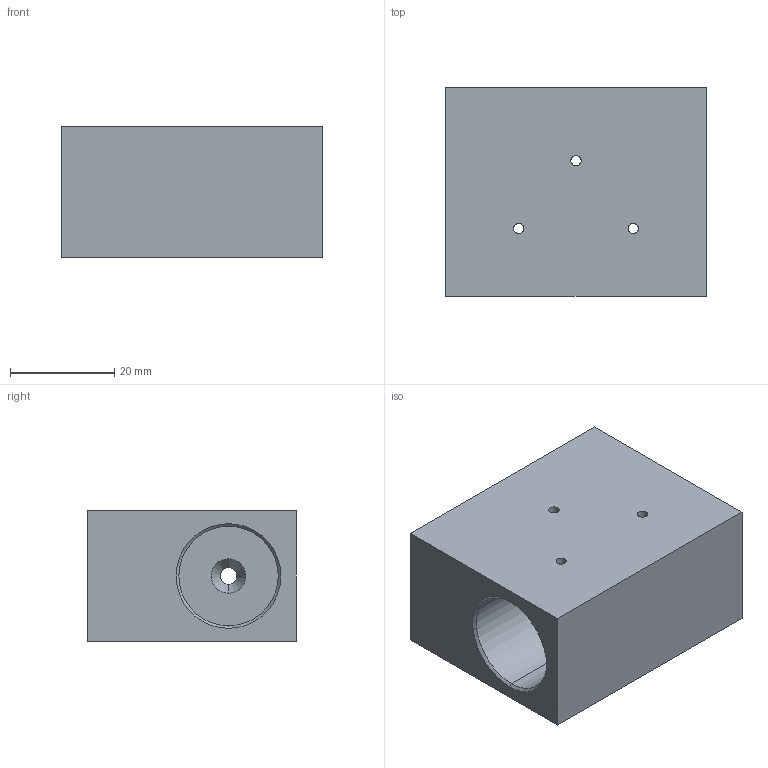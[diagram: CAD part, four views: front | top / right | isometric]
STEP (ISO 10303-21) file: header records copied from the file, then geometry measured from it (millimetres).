
FILE_DESCRIPTION (( 'STEP AP203' ), '1' );
FILE_NAME ('FT60TS06.STEP', '2026-06-26T01:33:23', ( 'USER' ), ( '' ), 'SwSTEP 2.0', 'SolidWorks 2023', '' );
FILE_SCHEMA (( 'CONFIG_CONTROL_DESIGN' ));
Length unit declared in the file: millimetre
Products named in the file (1): FT60TS06
Bounding box: 50 x 40 x 25 mm (x, y, z)
Volume: 35915.2 mm3; surface area: 11633.1 mm2
Topology: 1 solids, 1 shells, 44 faces, 114 edges, 68 vertices
Faces by surface type: cylinder 23, cone 12, plane 9
Entity records: 1601 total; most frequent: CARTESIAN_POINT 429, DIRECTION 228, ORIENTED_EDGE 228, EDGE_CURVE 114, AXIS2_PLACEMENT_3D 87, VERTEX_POINT 68, EDGE_LOOP 56, LINE 54
